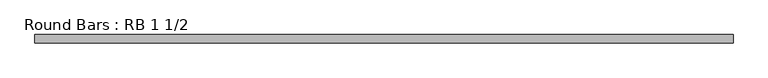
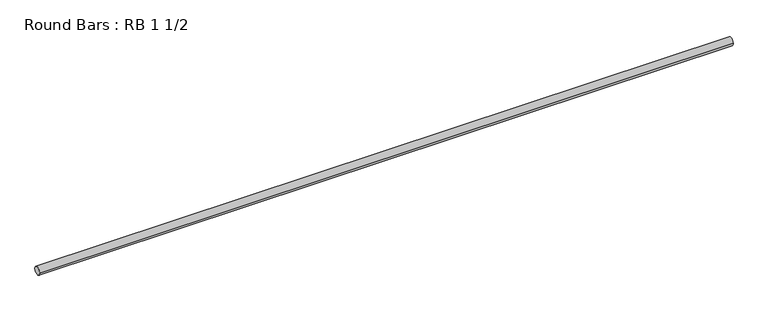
"""IFC4 building model written with IfcOpenShell, lengths in millimetres: member geometry, Round Bars : RB 1 1/2."""

from ifc_helpers import new_model, si_unit, point, frame, origin, origin_2d, place, context, project, spatial, circle_curve, trimmed, segment, composite_curve, outline, extrude, source, transform, mapped, element, save


def round_bars_rb_1_1_2_d9c5baca(model_context):
    return source(origin(), model_context, "Body", "SweptSolid", [
        extrude(outline(composite_curve([segment(trimmed(circle_curve(origin_2d(), 19.05), [point((19.05, 0.0))], [point((-19.05, 0.0))], False, "CARTESIAN"), True, "CONTINUOUS"), segment(trimmed(circle_curve(origin_2d(), 19.05), [point((-19.05, 0.0))], [point((19.05, 0.0))], False, "CARTESIAN"), True, "CONTINUOUS")], self_intersect=False)), frame((-1615.9635643, 0.0, 0.0), z_axis=(1.0, 0.0, 0.0), x_axis=(0.0, 1.0, 0.0)), (0.0, 0.0, 1.0), 3231.9271287),
    ])


if __name__ == "__main__":
    model = new_model("IFC4")
    model_context = context("Model", 3, world=origin())
    ifc_project = project(units=[si_unit("LENGTHUNIT", "METRE", prefix="MILLI")], contexts=[model_context])
    site = spatial("IfcSite", under=ifc_project)
    building = spatial("IfcBuilding", under=site)
    placement = place(None, origin())
    round_bars_rb_1_1_2_shape = round_bars_rb_1_1_2_d9c5baca(model_context)
    element("IfcMember", 1, ObjectType="Round Bars : RB 1 1/2", at=placement, inside=building, context=model_context, shape_type="MappedRepresentation", body=[
        mapped(round_bars_rb_1_1_2_shape, transform((0.0, 0.0, 0.0), x_axis=(1.0, 0.0, 0.0), y_axis=(0.0, 1.0, 0.0), z_axis=(0.0, 0.0, 1.0))),
    ])
    save(model, "model.ifc")
